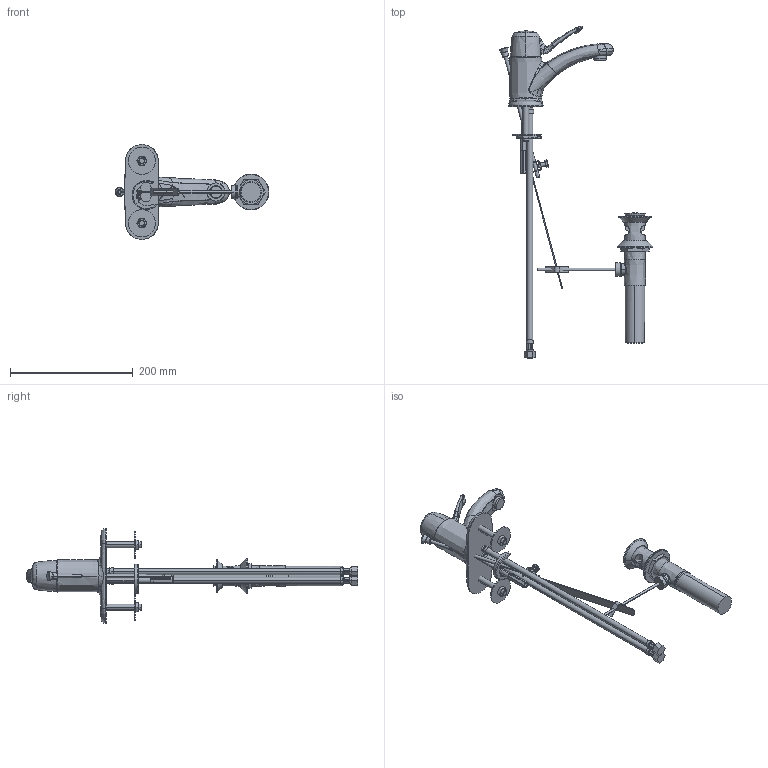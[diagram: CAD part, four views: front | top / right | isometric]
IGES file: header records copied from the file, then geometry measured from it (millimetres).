
Start section:  PTC IGES file: 2201-4e37cp_sw0001.igs
Global section: file name: 2201-4e37cp_sw0001.igs; native system: Creo Parametric by Parametric Technology Corporation; preprocessor: 2013050; author: jrodriguez; organization: Unknown; date: 20131003.085734; units: inch
Bounding box: 250.59 x 540.79 x 154.94 mm (x, y, z)
Surface area: 180375.1 mm2 (no closed solid volume)
Topology: 0 solids, 0 shells, 567 faces, 4271 edges, 5724 vertices
Faces by surface type: bspline 339, revolution 228
